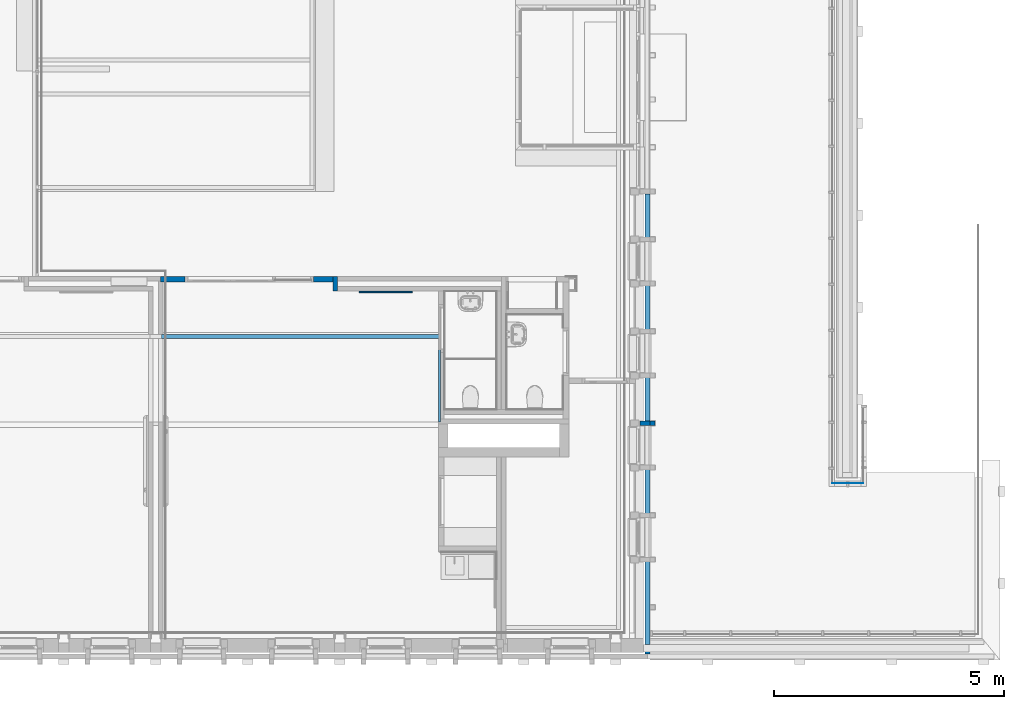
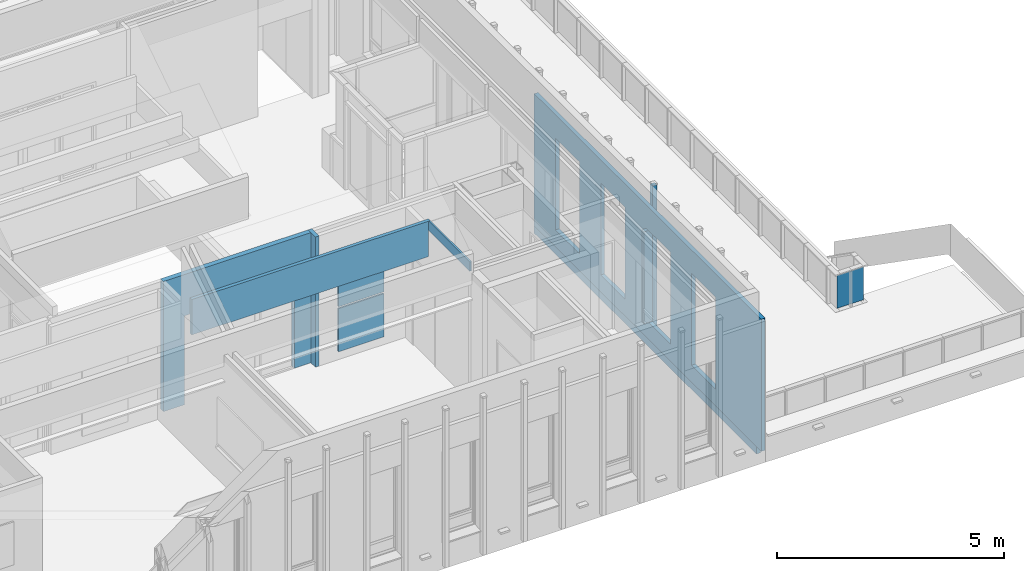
# One storey, part 43 of 118: 11 walls, 12 openings.
"""IFC2X3 building model written with IfcOpenShell, lengths in millimetres."""

from ifc_helpers import new_model, entity, si_unit, converted_unit, derived_unit, direction, frame, frame_2d, origin, place, context, subcontext, project, spatial, polyline, rectangle, extrude, clip, bounded_halfspace, faceted_brep, material, layer, layer_set, layer_usage, type_object, element, save


model = new_model("IFC2X3")

# Units and contexts
model_context = context("Model", 3, precision=0.01, world=origin(), true_north=direction((6.123031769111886e-17, 1.0)))
plan_context = context("Plan", 3, precision=0.01, world=origin(), true_north=direction((6.123031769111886e-17, 1.0)))
body_context = subcontext(model_context, "Body", "Model", "MODEL_VIEW")
ifc_project = project(units=[si_unit("LENGTHUNIT", "METRE", prefix="MILLI"), si_unit("AREAUNIT", "SQUARE_METRE"), si_unit("VOLUMEUNIT", "CUBIC_METRE"), converted_unit("PLANEANGLEUNIT", "DEGREE", entity("IfcRatioMeasure", 0.017453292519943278), si_unit("PLANEANGLEUNIT", "RADIAN"), dimensions=[0, 0, 0, 0, 0, 0, 0]), si_unit("MASSUNIT", "GRAM", prefix="KILO"), derived_unit("MASSDENSITYUNIT", [(si_unit("MASSUNIT", "GRAM", prefix="KILO"), 1), (si_unit("LENGTHUNIT", "METRE"), -3)]), derived_unit("IONCONCENTRATIONUNIT", [(si_unit("MASSUNIT", "GRAM", prefix="KILO"), 1), (si_unit("LENGTHUNIT", "METRE"), -3)]), derived_unit("MOMENTOFINERTIAUNIT", [(si_unit("LENGTHUNIT", "METRE"), 4)]), si_unit("TIMEUNIT", "SECOND"), si_unit("FREQUENCYUNIT", "HERTZ"), si_unit("THERMODYNAMICTEMPERATUREUNIT", "DEGREE_CELSIUS"), derived_unit("THERMALTRANSMITTANCEUNIT", [(si_unit("MASSUNIT", "GRAM", prefix="KILO"), 1), (si_unit("THERMODYNAMICTEMPERATUREUNIT", "KELVIN"), -1), (si_unit("TIMEUNIT", "SECOND"), -3)]), derived_unit("THERMALCONDUCTANCEUNIT", [(si_unit("MASSUNIT", "GRAM", prefix="KILO"), 1), (si_unit("THERMODYNAMICTEMPERATUREUNIT", "KELVIN"), -1), (si_unit("TIMEUNIT", "SECOND"), -3), (si_unit("LENGTHUNIT", "METRE"), 1)]), derived_unit("VOLUMETRICFLOWRATEUNIT", [(si_unit("LENGTHUNIT", "METRE"), 3), (si_unit("TIMEUNIT", "SECOND"), -1)]), derived_unit("MASSFLOWRATEUNIT", [(si_unit("MASSUNIT", "GRAM", prefix="KILO"), 1), (si_unit("TIMEUNIT", "SECOND"), -1)]), derived_unit("ROTATIONALFREQUENCYUNIT", [(si_unit("TIMEUNIT", "SECOND"), -1)]), si_unit("ELECTRICCURRENTUNIT", "AMPERE"), si_unit("ELECTRICVOLTAGEUNIT", "VOLT"), si_unit("POWERUNIT", "WATT"), si_unit("FORCEUNIT", "NEWTON", prefix="KILO"), si_unit("ILLUMINANCEUNIT", "LUX"), si_unit("LUMINOUSFLUXUNIT", "LUMEN"), si_unit("LUMINOUSINTENSITYUNIT", "CANDELA"), derived_unit("USERDEFINED", [(si_unit("MASSUNIT", "GRAM", prefix="KILO"), -1), (si_unit("LENGTHUNIT", "METRE"), -2), (si_unit("TIMEUNIT", "SECOND"), 3), (si_unit("LUMINOUSFLUXUNIT", "LUMEN"), 1)]), derived_unit("USERDEFINED", [(si_unit("MASSUNIT", "GRAM", prefix="KILO"), 1), (si_unit("TIMEUNIT", "SECOND"), -3), (si_unit("LENGTHUNIT", "METRE"), 3), (si_unit("ELECTRICCURRENTUNIT", "AMPERE"), -2)]), derived_unit("SOUNDPOWERUNIT", [(si_unit("MASSUNIT", "GRAM", prefix="KILO"), 1), (si_unit("TIMEUNIT", "SECOND"), -3), (si_unit("LENGTHUNIT", "METRE"), 2)]), derived_unit("SOUNDPRESSUREUNIT", [(si_unit("MASSUNIT", "GRAM", prefix="KILO"), 1), (si_unit("LENGTHUNIT", "METRE"), -1), (si_unit("TIMEUNIT", "SECOND"), -2)]), derived_unit("LINEARVELOCITYUNIT", [(si_unit("LENGTHUNIT", "METRE"), 1), (si_unit("TIMEUNIT", "SECOND"), -1)]), si_unit("PRESSUREUNIT", "PASCAL"), derived_unit("USERDEFINED", [(si_unit("MASSUNIT", "GRAM", prefix="KILO"), 1), (si_unit("LENGTHUNIT", "METRE"), -2), (si_unit("TIMEUNIT", "SECOND"), -2)]), derived_unit("LINEARFORCEUNIT", [(si_unit("MASSUNIT", "GRAM", prefix="KILO"), 1), (si_unit("TIMEUNIT", "SECOND"), -2)]), derived_unit("PLANARFORCEUNIT", [(si_unit("MASSUNIT", "GRAM", prefix="KILO"), 1), (si_unit("LENGTHUNIT", "METRE"), -1), (si_unit("TIMEUNIT", "SECOND"), -2)]), derived_unit("SPECIFICHEATCAPACITYUNIT", [(si_unit("THERMODYNAMICTEMPERATUREUNIT", "KELVIN"), -1), (si_unit("LENGTHUNIT", "METRE"), 2), (si_unit("TIMEUNIT", "SECOND"), -2)]), derived_unit("HEATINGVALUEUNIT", [(si_unit("LENGTHUNIT", "METRE"), 2), (si_unit("TIMEUNIT", "SECOND"), -2)]), derived_unit("VAPORPERMEABILITYUNIT", [(si_unit("LENGTHUNIT", "METRE"), -1), (si_unit("TIMEUNIT", "SECOND"), 1)]), derived_unit("DYNAMICVISCOSITYUNIT", [(si_unit("MASSUNIT", "GRAM", prefix="KILO"), 1), (si_unit("TIMEUNIT", "SECOND"), -1), (si_unit("LENGTHUNIT", "METRE"), -1)]), derived_unit("THERMALEXPANSIONCOEFFICIENTUNIT", [(si_unit("THERMODYNAMICTEMPERATUREUNIT", "KELVIN"), -1)]), derived_unit("MODULUSOFELASTICITYUNIT", [(si_unit("MASSUNIT", "GRAM", prefix="KILO"), 1), (si_unit("LENGTHUNIT", "METRE"), -1), (si_unit("TIMEUNIT", "SECOND"), -2)]), derived_unit("ISOTHERMALMOISTURECAPACITYUNIT", [(si_unit("LENGTHUNIT", "METRE"), 3), (si_unit("MASSUNIT", "GRAM", prefix="KILO"), -1)]), derived_unit("MOISTUREDIFFUSIVITYUNIT", [(si_unit("TIMEUNIT", "SECOND"), -1), (si_unit("LENGTHUNIT", "METRE"), 2)])], contexts=[model_context, plan_context])

# Site, building, storey
site_placement = place(None, origin())
site = spatial("IfcSite", under=ifc_project, at=site_placement, Name="Locatie", CompositionType="ELEMENT")
building_placement = place(site_placement, origin())
building = spatial("IfcBuilding", under=site, at=building_placement, Name="Bouwwerk", CompositionType="ELEMENT")
storey_placement = place(building_placement, frame((0.0, 0.0, 7800.0)))
storey = spatial("IfcBuildingStorey", under=building, at=storey_placement, Name="02 tweede verdieping", CompositionType="ELEMENT", Elevation=7800.000000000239)

# Walls
ifc_material_1 = material(Name="g2_metselwerk_geel licht")
ifc_layer_1 = layer(ifc_material_1, 100.0)
ifc_layer_set_1 = layer_set([ifc_layer_1], Name="Basic Wall:21_WA_metselwerk_licht_100_gen_bdg")
ifc_layer_usage_1 = layer_usage(ifc_layer_set_1, "AXIS2", "POSITIVE", -50.0)
wall_type_1 = type_object("IfcWallType", Name="Basic Wall:21_WA_metselwerk_licht_100_gen_bdg", PredefinedType="STANDARD", material=ifc_layer_set_1)
wall_1_placement = place(storey_placement, frame((34830.0, 14682.0, 603.0)))
element("IfcWallStandardCase", 1, at=wall_1_placement, inside=storey, type_object=wall_type_1, material=ifc_layer_usage_1, Name="Basic Wall:21_WA_metselwerk_licht_100_gen_bdg", ObjectType="Basic Wall:21_WA_metselwerk_licht_100_gen_bdg", context=body_context, shape_type="SweptSolid", body=[
    extrude(rectangle(XDim=210.00000000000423, YDim=99.99999999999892, at=frame_2d((105.00000000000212, 5.435651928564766e-13), x_axis=(-1.0, 0.0))), origin(), (0.0, 0.0, 1.0), 2471.999999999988),
])
wall_2_placement = place(storey_placement, frame((35040.0, 14682.0, 0.0)))
element("IfcWallStandardCase", 2, at=wall_2_placement, inside=storey, type_object=wall_type_1, material=ifc_layer_usage_1, Name="Basic Wall:21_WA_metselwerk_licht_100_gen_bdg", ObjectType="Basic Wall:21_WA_metselwerk_licht_100_gen_bdg", context=body_context, shape_type="SweptSolid", body=[
    extrude(rectangle(XDim=114.99999999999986, YDim=99.99999999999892, at=frame_2d((57.49999999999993, 6.679101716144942e-13), x_axis=(-1.0, 0.0))), origin(), (0.0, 0.0, 1.0), 4231.99999999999),
])

# Wall, openings
ifc_layer_usage_2 = layer_usage(ifc_layer_set_1, "AXIS2", "NEGATIVE", 50.0)
wall_3_placement = place(storey_placement, frame((34990.0, 19668.0, 150.0), z_axis=(0.0, 0.0, 1.0), x_axis=(0.0, -1.0, 0.0)))
wall_3 = element("IfcWallStandardCase", 3, at=wall_3_placement, inside=storey, type_object=wall_type_1, material=ifc_layer_usage_2, Name="Basic Wall:21_WA_metselwerk_licht_100_gen_bdg", ObjectType="Basic Wall:21_WA_metselwerk_licht_100_gen_bdg", context=body_context, shape_type="SweptSolid", body=[
    extrude(rectangle(XDim=10007.999999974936, YDim=100.00000000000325, at=frame_2d((5003.999999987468, 8.029132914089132e-13), x_axis=(-1.0, 0.0))), origin(), (0.0, 0.0, 1.0), 3550.0000000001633),
])
opening_1_placement = place(wall_3_placement, frame((24.0, -390.0, 36.0)))
element("IfcOpeningElement", 4, at=opening_1_placement, cuts=wall_3, Name="Basic Wall:21_WA_metselwerk_licht_100_gen_bdg", ObjectType="Opening", context=body_context, shape_type="Brep", body=[
    faceted_brep([(-24.0, 340.0, 2884.0), (-103.0, 340.0, 2884.0), (-103.0, 340.0, 42.0), (-5009.0, 340.0, 42.0), (-5009.0, 340.0, 2884.0), (-5088.0, 340.0, 2884.0), (-5088.0, 340.0, 0.0), (-24.0, 340.0, 0.0), (-5088.0, 640.0, 2884.0), (-24.0, 640.0, 2884.0), (-24.0, 640.0, 0.0), (-5088.0, 640.0, 0.0), (-5112.0, 25.0, 3011.0), (-5112.0, 25.0, 62.0), (0.0, 25.0, 62.0), (0.0, 25.0, 3011.0), (-4964.0, 25.0, 2860.0), (-148.0, 25.0, 2860.0), (-148.0, 25.0, 87.0), (-4964.0, 25.0, 87.0), (-5112.0, 300.0, 3011.0), (0.0, 300.0, 3011.0), (0.0, 300.0, 62.0), (-103.0, 300.0, 62.0), (-103.0, 300.0, 2925.0), (-5009.0, 300.0, 2925.0), (-5009.0, 300.0, 62.0), (-5112.0, 300.0, 62.0), (-103.0, 300.0, 42.0), (-5009.0, 300.0, 42.0), (-103.0, 340.0, 2925.0), (-5009.0, 340.0, 2925.0), (-4964.0, 0.0, 2860.0), (-4964.0, 0.0, 87.0), (-148.0, 0.0, 87.0), (-148.0, 0.0, 2860.0)], [[[0, 1, 2, 3, 4, 5, 6, 7]], [[8, 9, 10, 11]], [[5, 8, 11, 6]], [[6, 11, 10, 7]], [[7, 10, 9, 0]], [[8, 5, 4, 1, 0, 9]], [[12, 13, 14, 15], [16, 17, 18, 19]], [[20, 21, 22, 23, 24, 25, 26, 27]], [[12, 20, 27, 13]], [[13, 27, 26, 23, 22, 14]], [[14, 22, 21, 15]], [[15, 21, 20, 12]], [[28, 23, 26, 29]], [[30, 1, 4, 31]], [[29, 26, 25, 31, 4, 3]], [[2, 1, 30, 24, 23, 28]], [[31, 25, 24, 30]], [[32, 33, 34, 35]], [[32, 16, 19, 33]], [[33, 19, 18, 34]], [[34, 18, 17, 35]], [[35, 17, 16, 32]], [[29, 3, 2, 28]]]),
])
opening_2_placement = place(wall_3_placement, frame((8024.0, -565.0, 453.0)))
element("IfcOpeningElement", 5, at=opening_2_placement, cuts=wall_3, Name="Basic Wall:21_WA_metselwerk_licht_100_gen_bdg", ObjectType="Opening", context=body_context, shape_type="Brep", body=[
    faceted_brep([(-24.0, 515.0, 2472.0), (-103.0, 515.0, 2472.0), (-103.0, 515.0, 42.0), (-1009.0, 515.0, 42.0), (-1009.0, 515.0, 2472.0), (-1088.0, 515.0, 2472.0), (-1088.0, 515.0, 0.0), (-24.0, 515.0, 0.0), (-1088.0, 615.0, 2472.0), (-24.0, 615.0, 2472.0), (-24.0, 615.0, 0.0), (-1088.0, 615.0, 0.0), (-1112.0, 200.0, 2594.0), (-1112.0, 200.0, 11.0), (0.0, 200.0, 11.0), (0.0, 200.0, 2594.0), (-964.0, 200.0, 2443.0), (-148.0, 200.0, 2443.0), (-148.0, 200.0, 87.0), (-964.0, 200.0, 87.0), (-1112.0, 475.0, 2594.0), (0.0, 475.0, 2594.0), (0.0, 475.0, 11.0), (-1112.0, 475.0, 11.0), (-1009.0, 475.0, 42.0), (-103.0, 475.0, 42.0), (-103.0, 475.0, 2508.0), (-1009.0, 475.0, 2508.0), (-103.0, 515.0, 2508.0), (-1009.0, 515.0, 2508.0), (-964.0, 0.0, 2443.0), (-964.0, 0.0, 87.0), (-148.0, 0.0, 87.0), (-148.0, 0.0, 2443.0)], [[[0, 1, 2, 3, 4, 5, 6, 7]], [[8, 9, 10, 11]], [[5, 8, 11, 6]], [[6, 11, 10, 7]], [[7, 10, 9, 0]], [[8, 5, 4, 1, 0, 9]], [[12, 13, 14, 15], [16, 17, 18, 19]], [[20, 21, 22, 23], [24, 25, 26, 27]], [[12, 20, 23, 13]], [[13, 23, 22, 14]], [[14, 22, 21, 15]], [[15, 21, 20, 12]], [[28, 1, 4, 29]], [[24, 27, 29, 4, 3]], [[3, 2, 25, 24]], [[2, 1, 28, 26, 25]], [[29, 27, 26, 28]], [[30, 31, 32, 33]], [[30, 16, 19, 31]], [[31, 19, 18, 32]], [[32, 18, 17, 33]], [[33, 17, 16, 30]]]),
])
opening_3_placement = place(wall_3_placement, frame((6024.0, -565.0, 453.0)))
element("IfcOpeningElement", 6, at=opening_3_placement, cuts=wall_3, Name="Basic Wall:21_WA_metselwerk_licht_100_gen_bdg", ObjectType="Opening", context=body_context, shape_type="Brep", body=[
    faceted_brep([(-24.0, 515.0, 2472.0), (-103.0, 515.0, 2472.0), (-103.0, 515.0, 42.0), (-1009.0, 515.0, 42.0), (-1009.0, 515.0, 2472.0), (-1088.0, 515.0, 2472.0), (-1088.0, 515.0, 0.0), (-24.0, 515.0, 0.0), (-1088.0, 615.0, 2472.0), (-24.0, 615.0, 2472.0), (-24.0, 615.0, 0.0), (-1088.0, 615.0, 0.0), (-1112.0, 200.0, 2594.0), (-1112.0, 200.0, 11.0), (0.0, 200.0, 11.0), (0.0, 200.0, 2594.0), (-964.0, 200.0, 2443.0), (-148.0, 200.0, 2443.0), (-148.0, 200.0, 87.0), (-964.0, 200.0, 87.0), (-1112.0, 475.0, 2594.0), (0.0, 475.0, 2594.0), (0.0, 475.0, 11.0), (-1112.0, 475.0, 11.0), (-1009.0, 475.0, 42.0), (-103.0, 475.0, 42.0), (-103.0, 475.0, 2508.0), (-1009.0, 475.0, 2508.0), (-103.0, 515.0, 2508.0), (-1009.0, 515.0, 2508.0), (-964.0, 0.0, 2443.0), (-964.0, 0.0, 87.0), (-148.0, 0.0, 87.0), (-148.0, 0.0, 2443.0)], [[[0, 1, 2, 3, 4, 5, 6, 7]], [[8, 9, 10, 11]], [[5, 8, 11, 6]], [[6, 11, 10, 7]], [[7, 10, 9, 0]], [[8, 5, 4, 1, 0, 9]], [[12, 13, 14, 15], [16, 17, 18, 19]], [[20, 21, 22, 23], [24, 25, 26, 27]], [[12, 20, 23, 13]], [[13, 23, 22, 14]], [[14, 22, 21, 15]], [[15, 21, 20, 12]], [[28, 1, 4, 29]], [[24, 27, 29, 4, 3]], [[3, 2, 25, 24]], [[2, 1, 28, 26, 25]], [[29, 27, 26, 28]], [[30, 31, 32, 33]], [[30, 16, 19, 31]], [[31, 19, 18, 32]], [[32, 18, 17, 33]], [[33, 17, 16, 30]]]),
])
opening_4_placement = place(wall_3_placement, frame((4024.0, -565.0, 453.0)))
element("IfcOpeningElement", 7, at=opening_4_placement, cuts=wall_3, Name="Basic Wall:21_WA_metselwerk_licht_100_gen_bdg", ObjectType="Opening", context=body_context, shape_type="Brep", body=[
    faceted_brep([(-24.0, 515.0, 2472.0), (-103.0, 515.0, 2472.0), (-103.0, 515.0, 42.0), (-1009.0, 515.0, 42.0), (-1009.0, 515.0, 2472.0), (-1088.0, 515.0, 2472.0), (-1088.0, 515.0, 0.0), (-24.0, 515.0, 0.0), (-1088.0, 615.0, 2472.0), (-24.0, 615.0, 2472.0), (-24.0, 615.0, 0.0), (-1088.0, 615.0, 0.0), (-1112.0, 200.0, 2594.0), (-1112.0, 200.0, 11.0), (0.0, 200.0, 11.0), (0.0, 200.0, 2594.0), (-964.0, 200.0, 2443.0), (-148.0, 200.0, 2443.0), (-148.0, 200.0, 87.0), (-964.0, 200.0, 87.0), (-1112.0, 475.0, 2594.0), (0.0, 475.0, 2594.0), (0.0, 475.0, 11.0), (-1112.0, 475.0, 11.0), (-1009.0, 475.0, 42.0), (-103.0, 475.0, 42.0), (-103.0, 475.0, 2508.0), (-1009.0, 475.0, 2508.0), (-103.0, 515.0, 2508.0), (-1009.0, 515.0, 2508.0), (-964.0, 0.0, 2443.0), (-964.0, 0.0, 87.0), (-148.0, 0.0, 87.0), (-148.0, 0.0, 2443.0)], [[[0, 1, 2, 3, 4, 5, 6, 7]], [[8, 9, 10, 11]], [[5, 8, 11, 6]], [[6, 11, 10, 7]], [[7, 10, 9, 0]], [[8, 5, 4, 1, 0, 9]], [[12, 13, 14, 15], [16, 17, 18, 19]], [[20, 21, 22, 23], [24, 25, 26, 27]], [[12, 20, 23, 13]], [[13, 23, 22, 14]], [[14, 22, 21, 15]], [[15, 21, 20, 12]], [[28, 1, 4, 29]], [[24, 27, 29, 4, 3]], [[3, 2, 25, 24]], [[2, 1, 28, 26, 25]], [[29, 27, 26, 28]], [[30, 31, 32, 33]], [[30, 16, 19, 31]], [[31, 19, 18, 32]], [[32, 18, 17, 33]], [[33, 17, 16, 30]]]),
])
opening_5_placement = place(wall_3_placement, frame((2024.0, -565.0, 453.0)))
element("IfcOpeningElement", 8, at=opening_5_placement, cuts=wall_3, Name="Basic Wall:21_WA_metselwerk_licht_100_gen_bdg", ObjectType="Opening", context=body_context, shape_type="Brep", body=[
    faceted_brep([(-24.0, 515.0, 2472.0), (-103.0, 515.0, 2472.0), (-103.0, 515.0, 42.0), (-1009.0, 515.0, 42.0), (-1009.0, 515.0, 2472.0), (-1088.0, 515.0, 2472.0), (-1088.0, 515.0, 0.0), (-24.0, 515.0, 0.0), (-1088.0, 615.0, 2472.0), (-24.0, 615.0, 2472.0), (-24.0, 615.0, 0.0), (-1088.0, 615.0, 0.0), (-1112.0, 200.0, 2594.0), (-1112.0, 200.0, 11.0), (0.0, 200.0, 11.0), (0.0, 200.0, 2594.0), (-964.0, 200.0, 2443.0), (-148.0, 200.0, 2443.0), (-148.0, 200.0, 87.0), (-964.0, 200.0, 87.0), (-1112.0, 475.0, 2594.0), (0.0, 475.0, 2594.0), (0.0, 475.0, 11.0), (-1112.0, 475.0, 11.0), (-1009.0, 475.0, 42.0), (-103.0, 475.0, 42.0), (-103.0, 475.0, 2508.0), (-1009.0, 475.0, 2508.0), (-103.0, 515.0, 2508.0), (-1009.0, 515.0, 2508.0), (-964.0, 0.0, 2443.0), (-964.0, 0.0, 87.0), (-148.0, 0.0, 87.0), (-148.0, 0.0, 2443.0)], [[[0, 1, 2, 3, 4, 5, 6, 7]], [[8, 9, 10, 11]], [[5, 8, 11, 6]], [[6, 11, 10, 7]], [[7, 10, 9, 0]], [[8, 5, 4, 1, 0, 9]], [[12, 13, 14, 15], [16, 17, 18, 19]], [[20, 21, 22, 23], [24, 25, 26, 27]], [[12, 20, 23, 13]], [[13, 23, 22, 14]], [[14, 22, 21, 15]], [[15, 21, 20, 12]], [[28, 1, 4, 29]], [[24, 27, 29, 4, 3]], [[3, 2, 25, 24]], [[2, 1, 28, 26, 25]], [[29, 27, 26, 28]], [[30, 31, 32, 33]], [[30, 16, 19, 31]], [[31, 19, 18, 32]], [[32, 18, 17, 33]], [[33, 17, 16, 30]]]),
])
opening_6_placement = place(wall_3_placement, frame((-5976.0, -565.0, 453.0)))
element("IfcOpeningElement", 9, at=opening_6_placement, cuts=wall_3, Name="Basic Wall:21_WA_metselwerk_licht_100_gen_bdg", ObjectType="Opening", context=body_context, shape_type="Brep", body=[
    faceted_brep([(-24.0, 515.0, 2472.0), (-103.0, 515.0, 2472.0), (-103.0, 515.0, 42.0), (-1009.0, 515.0, 42.0), (-1009.0, 515.0, 2472.0), (-1088.0, 515.0, 2472.0), (-1088.0, 515.0, 0.0), (-24.0, 515.0, 0.0), (-1088.0, 615.0, 2472.0), (-24.0, 615.0, 2472.0), (-24.0, 615.0, 0.0), (-1088.0, 615.0, 0.0), (-1112.0, 200.0, 2594.0), (-1112.0, 200.0, 11.0), (0.0, 200.0, 11.0), (0.0, 200.0, 2594.0), (-964.0, 200.0, 2443.0), (-148.0, 200.0, 2443.0), (-148.0, 200.0, 87.0), (-964.0, 200.0, 87.0), (-1112.0, 475.0, 2594.0), (0.0, 475.0, 2594.0), (0.0, 475.0, 11.0), (-1112.0, 475.0, 11.0), (-1009.0, 475.0, 42.0), (-103.0, 475.0, 42.0), (-103.0, 475.0, 2508.0), (-1009.0, 475.0, 2508.0), (-103.0, 515.0, 2508.0), (-1009.0, 515.0, 2508.0), (-964.0, 0.0, 2443.0), (-964.0, 0.0, 87.0), (-148.0, 0.0, 87.0), (-148.0, 0.0, 2443.0)], [[[0, 1, 2, 3, 4, 5, 6, 7]], [[8, 9, 10, 11]], [[5, 8, 11, 6]], [[6, 11, 10, 7]], [[7, 10, 9, 0]], [[8, 5, 4, 1, 0, 9]], [[12, 13, 14, 15], [16, 17, 18, 19]], [[20, 21, 22, 23], [24, 25, 26, 27]], [[12, 20, 23, 13]], [[13, 23, 22, 14]], [[14, 22, 21, 15]], [[15, 21, 20, 12]], [[28, 1, 4, 29]], [[24, 27, 29, 4, 3]], [[3, 2, 25, 24]], [[2, 1, 28, 26, 25]], [[29, 27, 26, 28]], [[30, 31, 32, 33]], [[30, 16, 19, 31]], [[31, 19, 18, 32]], [[32, 18, 17, 33]], [[33, 17, 16, 30]]]),
])
opening_7_placement = place(wall_3_placement, frame((-7976.0, -565.0, 453.0)))
element("IfcOpeningElement", 10, at=opening_7_placement, cuts=wall_3, Name="Basic Wall:21_WA_metselwerk_licht_100_gen_bdg", ObjectType="Opening", context=body_context, shape_type="Brep", body=[
    faceted_brep([(-24.0, 515.0, 2472.0), (-103.0, 515.0, 2472.0), (-103.0, 515.0, 42.0), (-1009.0, 515.0, 42.0), (-1009.0, 515.0, 2472.0), (-1088.0, 515.0, 2472.0), (-1088.0, 515.0, 0.0), (-24.0, 515.0, 0.0), (-1088.0, 615.0, 2472.0), (-24.0, 615.0, 2472.0), (-24.0, 615.0, 0.0), (-1088.0, 615.0, 0.0), (-1112.0, 200.0, 2594.0), (-1112.0, 200.0, 11.0), (0.0, 200.0, 11.0), (0.0, 200.0, 2594.0), (-964.0, 200.0, 2443.0), (-148.0, 200.0, 2443.0), (-148.0, 200.0, 87.0), (-964.0, 200.0, 87.0), (-1112.0, 475.0, 2594.0), (0.0, 475.0, 2594.0), (0.0, 475.0, 11.0), (-1112.0, 475.0, 11.0), (-1009.0, 475.0, 42.0), (-103.0, 475.0, 42.0), (-103.0, 475.0, 2508.0), (-1009.0, 475.0, 2508.0), (-103.0, 515.0, 2508.0), (-1009.0, 515.0, 2508.0), (-964.0, 0.0, 2443.0), (-964.0, 0.0, 87.0), (-148.0, 0.0, 87.0), (-148.0, 0.0, 2443.0)], [[[0, 1, 2, 3, 4, 5, 6, 7]], [[8, 9, 10, 11]], [[5, 8, 11, 6]], [[6, 11, 10, 7]], [[7, 10, 9, 0]], [[8, 5, 4, 1, 0, 9]], [[12, 13, 14, 15], [16, 17, 18, 19]], [[20, 21, 22, 23], [24, 25, 26, 27]], [[12, 20, 23, 13]], [[13, 23, 22, 14]], [[14, 22, 21, 15]], [[15, 21, 20, 12]], [[28, 1, 4, 29]], [[24, 27, 29, 4, 3]], [[3, 2, 25, 24]], [[2, 1, 28, 26, 25]], [[29, 27, 26, 28]], [[30, 31, 32, 33]], [[30, 16, 19, 31]], [[31, 19, 18, 32]], [[32, 18, 17, 33]], [[33, 17, 16, 30]]]),
])
opening_8_placement = place(wall_3_placement, frame((-9976.0, -565.0, 453.0)))
element("IfcOpeningElement", 11, at=opening_8_placement, cuts=wall_3, Name="Basic Wall:21_WA_metselwerk_licht_100_gen_bdg", ObjectType="Opening", context=body_context, shape_type="Brep", body=[
    faceted_brep([(-24.0, 515.0, 2472.0), (-103.0, 515.0, 2472.0), (-103.0, 515.0, 42.0), (-1009.0, 515.0, 42.0), (-1009.0, 515.0, 2472.0), (-1088.0, 515.0, 2472.0), (-1088.0, 515.0, 0.0), (-24.0, 515.0, 0.0), (-1088.0, 615.0, 2472.0), (-24.0, 615.0, 2472.0), (-24.0, 615.0, 0.0), (-1088.0, 615.0, 0.0), (-1112.0, 200.0, 2594.0), (-1112.0, 200.0, 11.0), (0.0, 200.0, 11.0), (0.0, 200.0, 2594.0), (-964.0, 200.0, 2443.0), (-148.0, 200.0, 2443.0), (-148.0, 200.0, 87.0), (-964.0, 200.0, 87.0), (-1112.0, 475.0, 2594.0), (0.0, 475.0, 2594.0), (0.0, 475.0, 11.0), (-1112.0, 475.0, 11.0), (-1009.0, 475.0, 42.0), (-103.0, 475.0, 42.0), (-103.0, 475.0, 2508.0), (-1009.0, 475.0, 2508.0), (-103.0, 515.0, 2508.0), (-1009.0, 515.0, 2508.0), (-964.0, 0.0, 2443.0), (-964.0, 0.0, 87.0), (-148.0, 0.0, 87.0), (-148.0, 0.0, 2443.0)], [[[0, 1, 2, 3, 4, 5, 6, 7]], [[8, 9, 10, 11]], [[5, 8, 11, 6]], [[6, 11, 10, 7]], [[7, 10, 9, 0]], [[8, 5, 4, 1, 0, 9]], [[12, 13, 14, 15], [16, 17, 18, 19]], [[20, 21, 22, 23], [24, 25, 26, 27]], [[12, 20, 23, 13]], [[13, 23, 22, 14]], [[14, 22, 21, 15]], [[15, 21, 20, 12]], [[28, 1, 4, 29]], [[24, 27, 29, 4, 3]], [[3, 2, 25, 24]], [[2, 1, 28, 26, 25]], [[29, 27, 26, 28]], [[30, 31, 32, 33]], [[30, 16, 19, 31]], [[31, 19, 18, 32]], [[32, 18, 17, 33]], [[33, 17, 16, 30]]]),
])
opening_9_placement = place(wall_3_placement, frame((-11976.0, -565.0, 453.0)))
element("IfcOpeningElement", 12, at=opening_9_placement, cuts=wall_3, Name="Basic Wall:21_WA_metselwerk_licht_100_gen_bdg", ObjectType="Opening", context=body_context, shape_type="Brep", body=[
    faceted_brep([(-24.0, 515.0, 2472.0), (-103.0, 515.0, 2472.0), (-103.0, 515.0, 42.0), (-1009.0, 515.0, 42.0), (-1009.0, 515.0, 2472.0), (-1088.0, 515.0, 2472.0), (-1088.0, 515.0, 0.0), (-24.0, 515.0, 0.0), (-1088.0, 615.0, 2472.0), (-24.0, 615.0, 2472.0), (-24.0, 615.0, 0.0), (-1088.0, 615.0, 0.0), (-1112.0, 200.0, 2594.0), (-1112.0, 200.0, 11.0), (0.0, 200.0, 11.0), (0.0, 200.0, 2594.0), (-964.0, 200.0, 2443.0), (-148.0, 200.0, 2443.0), (-148.0, 200.0, 87.0), (-964.0, 200.0, 87.0), (-1112.0, 475.0, 2594.0), (0.0, 475.0, 2594.0), (0.0, 475.0, 11.0), (-1112.0, 475.0, 11.0), (-1009.0, 475.0, 42.0), (-103.0, 475.0, 42.0), (-103.0, 475.0, 2508.0), (-1009.0, 475.0, 2508.0), (-103.0, 515.0, 2508.0), (-1009.0, 515.0, 2508.0), (-964.0, 0.0, 2443.0), (-964.0, 0.0, 87.0), (-148.0, 0.0, 87.0), (-148.0, 0.0, 2443.0)], [[[0, 1, 2, 3, 4, 5, 6, 7]], [[8, 9, 10, 11]], [[5, 8, 11, 6]], [[6, 11, 10, 7]], [[7, 10, 9, 0]], [[8, 5, 4, 1, 0, 9]], [[12, 13, 14, 15], [16, 17, 18, 19]], [[20, 21, 22, 23], [24, 25, 26, 27]], [[12, 20, 23, 13]], [[13, 23, 22, 14]], [[14, 22, 21, 15]], [[15, 21, 20, 12]], [[28, 1, 4, 29]], [[24, 27, 29, 4, 3]], [[3, 2, 25, 24]], [[2, 1, 28, 26, 25]], [[29, 27, 26, 28]], [[30, 31, 32, 33]], [[30, 16, 19, 31]], [[31, 19, 18, 32]], [[32, 18, 17, 33]], [[33, 17, 16, 30]]]),
])
opening_10_placement = place(wall_3_placement, origin())
element("IfcOpeningElement", 13, at=opening_10_placement, cuts=wall_3, Name="Basic Wall:21_WA_metselwerk_licht_100_gen_bdg", ObjectType="Opening", context=body_context, shape_type="SweptSolid", body=[
    extrude(rectangle(XDim=2387.000000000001, YDim=124.99999999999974, at=frame_2d((-1.0835776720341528e-12, -1.1368683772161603e-12), x_axis=(0.0, 1.0))), frame((4061.0, -1424.0, 1043.499999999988), z_axis=(0.0, 1.0, 0.0), x_axis=(1.0, 0.0, 0.0)), (0.0, 0.0, 1.0), 1034.0000000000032),
])
opening_11_placement = place(wall_3_placement, origin())
element("IfcOpeningElement", 14, at=opening_11_placement, cuts=wall_3, Name="Basic Wall:21_WA_metselwerk_licht_100_gen_bdg", ObjectType="Opening", context=body_context, shape_type="SweptSolid", body=[
    extrude(rectangle(XDim=2387.000000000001, YDim=125.0000000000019, at=frame_2d((-2.1671553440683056e-12, -1.1368683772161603e-12), x_axis=(0.0, 1.0))), frame((-8071.500000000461, -1424.0, 1043.499999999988), z_axis=(0.0, 1.0, 0.0), x_axis=(1.0, 0.0, 0.0)), (0.0, 0.0, 1.0), 1034.0000000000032),
])

# Wall, opening
ifc_material_2 = material(Name="f7_gipsvezel")
ifc_layer_2 = layer(ifc_material_2, 12.5)
ifc_material_3 = material(Name="f7_gips")
ifc_layer_3 = layer(ifc_material_3, 12.5)
ifc_material_4 = material(Name="n7_isolatie_glaswol")
ifc_layer_4 = layer(ifc_material_4, 75.0)
ifc_layer_5 = layer(ifc_material_3, 12.5)
ifc_layer_6 = layer(ifc_material_2, 12.5)
ifc_layer_set_2 = layer_set([ifc_layer_2, ifc_layer_3, ifc_layer_4, ifc_layer_5, ifc_layer_6], Name="Basic Wall: 25-75-25 _gen_bdg")
ifc_layer_usage_3 = layer_usage(ifc_layer_set_2, "AXIS2", "NEGATIVE", 62.50000000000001)
wall_type_2 = type_object("IfcWallType", Name="Basic Wall: 25-75-25 _gen_bdg", PredefinedType="STANDARD", material=ifc_layer_set_2)
wall_4_placement = place(storey_placement, frame((24405.0, 17812.499999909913, 0.0)))
wall_4 = element("IfcWallStandardCase", 15, at=wall_4_placement, inside=storey, type_object=wall_type_2, material=ifc_layer_usage_3, Name="Basic Wall: 25-75-25 _gen_bdg", ObjectType="Basic Wall: 25-75-25 _gen_bdg", context=body_context, shape_type="SweptSolid", body=[
    extrude(rectangle(XDim=3749.999999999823, YDim=125.0000000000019, at=frame_2d((1874.9999999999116, 6.963318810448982e-13), x_axis=(-1.0, 0.0))), origin(), (0.0, 0.0, 1.0), 3500.0000000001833),
])
opening_12_placement = place(wall_4_placement, frame((-24405.0, -17812.499999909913, 0.0)))
element("IfcOpeningElement", 16, at=opening_12_placement, cuts=wall_4, Name="Basic Wall: 25-75-25 _gen_bdg", ObjectType="Opening", context=body_context, shape_type="SweptSolid", body=[
    extrude(rectangle(XDim=2386.9999999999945, YDim=2796.000000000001, at=frame_2d((0.0, 2.1600499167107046e-12), x_axis=(1.0, 0.0))), frame((26336.0, 16351.0, 1193.4999999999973), z_axis=(0.0, 1.0, 0.0), x_axis=(0.0, 0.0, 1.0)), (0.0, 0.0, 1.0), 3048.0),
])

# Walls
ifc_layer_7 = layer(ifc_material_2, 12.5)
ifc_layer_8 = layer(ifc_material_3, 12.5)
ifc_layer_9 = layer(ifc_material_4, 75.0)
ifc_layer_set_3 = layer_set([ifc_layer_7, ifc_layer_8, ifc_layer_9], Name="Basic Wall:22_WA_voorzetwand_ms100 25-75 _gen_bdg")
ifc_layer_usage_4 = layer_usage(ifc_layer_set_3, "AXIS2", "NEGATIVE", 50.0)
wall_type_3 = type_object("IfcWallType", Name="Basic Wall:22_WA_voorzetwand_ms100 25-75 _gen_bdg", PredefinedType="STANDARD", material=ifc_layer_set_3)
wall_5_placement = place(storey_placement, frame((28205.0, 17555.0, 0.0), z_axis=(0.0, 0.0, 1.0), x_axis=(0.0, 1.0, 0.0)))
element("IfcWallStandardCase", 17, at=wall_5_placement, inside=storey, type_object=wall_type_3, material=ifc_layer_usage_4, Name="Basic Wall:22_WA_voorzetwand_ms100 25-75 _gen_bdg", ObjectType="Basic Wall:22_WA_voorzetwand_ms100 25-75 _gen_bdg", context=body_context, shape_type="SweptSolid", body=[
    extrude(rectangle(XDim=319.99999990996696, YDim=100.00000000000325, at=frame_2d((159.99999995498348, 0.0), x_axis=(-1.0, 0.0))), origin(), (0.0, 0.0, 1.0), 3500.0000000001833),
])
ifc_material_5 = material(Name="g2_metselwerk_betonblok")
ifc_layer_10 = layer(ifc_material_5, 100.0)
ifc_layer_set_4 = layer_set([ifc_layer_10], Name="Basic Wall:NLRS_22_WA_cellenbeton 100_gen_bdg")
ifc_layer_usage_5 = layer_usage(ifc_layer_set_4, "AXIS2", "NEGATIVE", 50.0)
wall_type_4 = type_object("IfcWallType", Name="Basic Wall:NLRS_22_WA_cellenbeton 100_gen_bdg", PredefinedType="STANDARD", material=ifc_layer_set_4)
wall_6_placement = place(storey_placement, frame((34990.0, 19668.0, -50.0), z_axis=(0.0, 0.0, 1.0), x_axis=(0.0, -1.0, 0.0)))
element("IfcWallStandardCase", 18, at=wall_6_placement, inside=storey, type_object=wall_type_4, material=ifc_layer_usage_5, Name="Basic Wall:NLRS_22_WA_cellenbeton 100_gen_bdg", ObjectType="Basic Wall:NLRS_22_WA_cellenbeton 100_gen_bdg", context=body_context, shape_type="SweptSolid", body=[
    extrude(rectangle(XDim=9797.999999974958, YDim=100.00000000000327, at=frame_2d((4898.999999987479, 7.887024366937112e-13), x_axis=(-1.0, 0.0))), origin(), (0.0, 0.0, 1.0), 200.0),
])
ifc_layer_11 = layer(ifc_material_2, 13.000000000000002)
ifc_material_6 = material(Name="ISR_Luchtspouw")
ifc_layer_12 = layer(ifc_material_6, 71.0)
ifc_layer_set_5 = layer_set([ifc_layer_11, ifc_layer_12], Name="Basic Wall:22_WA_koof_83 12-71")
ifc_layer_usage_6 = layer_usage(ifc_layer_set_5, "AXIS2", "NEGATIVE", 41.99999999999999)
wall_type_5 = type_object("IfcWallType", Name="Basic Wall:22_WA_koof_83 12-71", PredefinedType="STANDARD", material=ifc_layer_set_5)
wall_7_placement = place(storey_placement, frame((30488.500000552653, 16567.0, 2800.0), z_axis=(0.0, 0.0, 1.0), x_axis=(-1.0, 0.0, 0.0)))
element("IfcWallStandardCase", 19, at=wall_7_placement, inside=storey, type_object=wall_type_5, material=ifc_layer_usage_6, Name="Basic Wall:22_WA_koof_83 12-71", ObjectType="Basic Wall:22_WA_koof_83 12-71", context=body_context, shape_type="Clipping", body=[
    clip(clip(extrude(rectangle(XDim=6068.500000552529, YDim=83.99999999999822, at=frame_2d((3034.2500002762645, -2.877698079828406e-13), x_axis=(-1.0, 0.0))), origin(), (0.0, 0.0, 1.0), 950.0000000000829), bounded_halfspace(frame((43.50000791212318, -42.0, 700.0), z_axis=(1.0, 0.0, 0.0), x_axis=(0.0, 1.0, 0.0)), True, frame((43.50000791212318, -42.0, 700.0), z_axis=(1.0, 0.0, 0.0), x_axis=(0.0, 1.0, 0.0)), polyline([(0.0, 0.0), (0.0, -700.0), (84.0, -700.0), (84.0, 0.0), (0.0, 0.0)]))), bounded_halfspace(frame((43.500007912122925, 42.0, 700.0)), True, frame((43.500007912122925, 42.0, 700.0)), polyline([(0.0, 0.0), (-43.500007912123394, 0.0), (-43.50000791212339, -84.0), (0.0, -84.0), (0.0, 0.0)]))),
])
ifc_layer_13 = layer(ifc_material_2, 12.5)
ifc_layer_14 = layer(ifc_material_3, 12.5)
ifc_layer_15 = layer(ifc_material_6, 20.0)
ifc_layer_set_6 = layer_set([ifc_layer_13, ifc_layer_14, ifc_layer_15], Name="Basic Wall:22_WA_2xgips+rachels 25-20 _gen_bdg")
ifc_layer_usage_7 = layer_usage(ifc_layer_set_6, "AXIS2", "NEGATIVE", 22.50000000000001)
wall_type_6 = type_object("IfcWallType", Name="Basic Wall:22_WA_2xgips+rachels 25-20 _gen_bdg", PredefinedType="STANDARD", material=ifc_layer_set_6)
wall_8_placement = place(storey_placement, frame((30467.49999264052, 14713.0, 3500.0), z_axis=(0.0, 0.0, 1.0), x_axis=(0.0, 1.0, 0.0)))
element("IfcWallStandardCase", 20, at=wall_8_placement, inside=storey, type_object=wall_type_6, material=ifc_layer_usage_7, Name="Basic Wall:22_WA_2xgips+rachels 25-20 _gen_bdg", ObjectType="Basic Wall:22_WA_2xgips+rachels 25-20 _gen_bdg", context=body_context, shape_type="SweptSolid", body=[
    extrude(rectangle(XDim=1811.9999999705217, YDim=44.99999999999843, at=frame_2d((905.9999999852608, 0.0), x_axis=(-1.0, 0.0))), origin(), (0.0, 0.0, 1.0), 249.9999999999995),
])
ifc_material_7 = material(Name="ISR_RVS_Carlstahl")
ifc_layer_16 = layer(ifc_material_7, 2.0)
ifc_layer_set_7 = layer_set([ifc_layer_16], Name="Basic Wall:NLRS_20_WA_RVS Carlstahl 2 TRANS")
ifc_layer_usage_8 = layer_usage(ifc_layer_set_7, "AXIS2", "NEGATIVE", 1.0)
wall_type_7 = type_object("IfcWallType", Name="Basic Wall:NLRS_20_WA_RVS Carlstahl 2 TRANS", PredefinedType="STANDARD", material=ifc_layer_set_7)
wall_9_placement = place(storey_placement, frame((39010.0, 13379.0, 313.0)))
element("IfcWallStandardCase", 21, at=wall_9_placement, inside=storey, type_object=wall_type_7, material=ifc_layer_usage_8, Name="Basic Wall:NLRS_20_WA_RVS Carlstahl 2 TRANS", ObjectType="Basic Wall:NLRS_20_WA_RVS Carlstahl 2 TRANS", context=body_context, shape_type="SweptSolid", body=[
    extrude(rectangle(XDim=673.5704824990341, YDim=1.9999999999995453, at=frame_2d((336.78524124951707, 6.962208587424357e-13), x_axis=(-1.0, 0.0))), origin(), (0.0, 0.0, 1.0), 886.9999999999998),
])
ifc_material_8 = material(Name="f7_binnenwandafwerking")
ifc_layer_17 = layer(ifc_material_8, 1.0)
ifc_layer_18 = layer(ifc_material_6, 39.0)
ifc_layer_set_8 = layer_set([ifc_layer_17, ifc_layer_18], Name="Basic Wall:NLRS_41_WA_akoestische panelen 40_gen_ISR")
ifc_layer_usage_9 = layer_usage(ifc_layer_set_8, "AXIS2", "NEGATIVE", 20.0)
wall_type_8 = type_object("IfcWallType", Name="Basic Wall:NLRS_41_WA_akoestische panelen 40_gen_ISR", PredefinedType="STANDARD", material=ifc_layer_set_8)
for number, where, z_axis, x_axis, name in (
    (22, (29880.0, 17535.0, 1450.0), (0.0, 0.0, 1.0), (-1.0, 0.0, 0.0), "Basic Wall:NLRS_41_WA_akoestische panelen 40_gen_ISR"),
    (23, (29880.0, 17535.0, 240.0), (0.0, 0.0, 1.0), (-1.0, 0.0, 0.0), "Basic Wall:NLRS_41_WA_akoestische panelen 40_gen_ISR"),
):
    element("IfcWallStandardCase", number, at=place(storey_placement, frame(where, z_axis=z_axis, x_axis=x_axis)), inside=storey, type_object=wall_type_8, material=ifc_layer_usage_9, Name=name, ObjectType="Basic Wall:NLRS_41_WA_akoestische panelen 40_gen_ISR", context=body_context, shape_type="SweptSolid", body=[
        extrude(rectangle(XDim=1160.0000000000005, YDim=39.999999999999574, at=frame_2d((580.0000000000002, 1.3677947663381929e-13), x_axis=(-1.0, 0.0))), origin(), (0.0, 0.0, 1.0), 1160.0000000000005),
    ])

save(model, "model.ifc")
